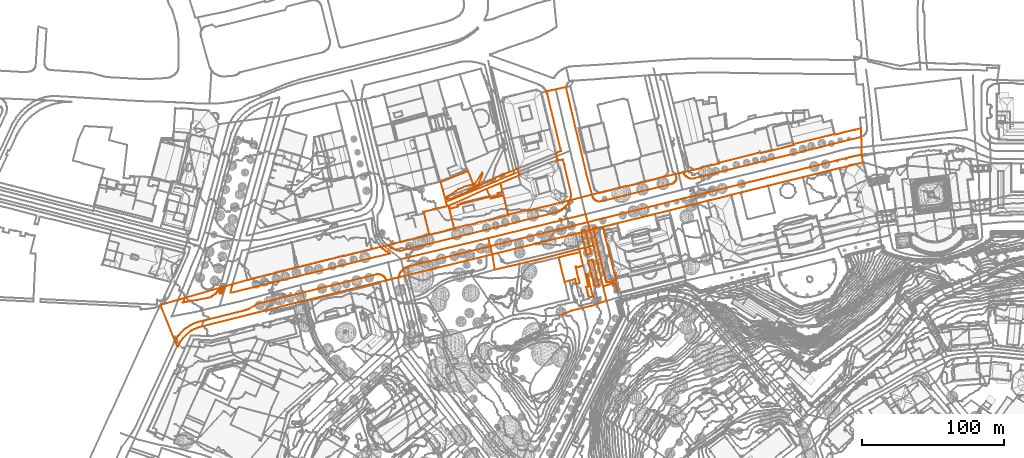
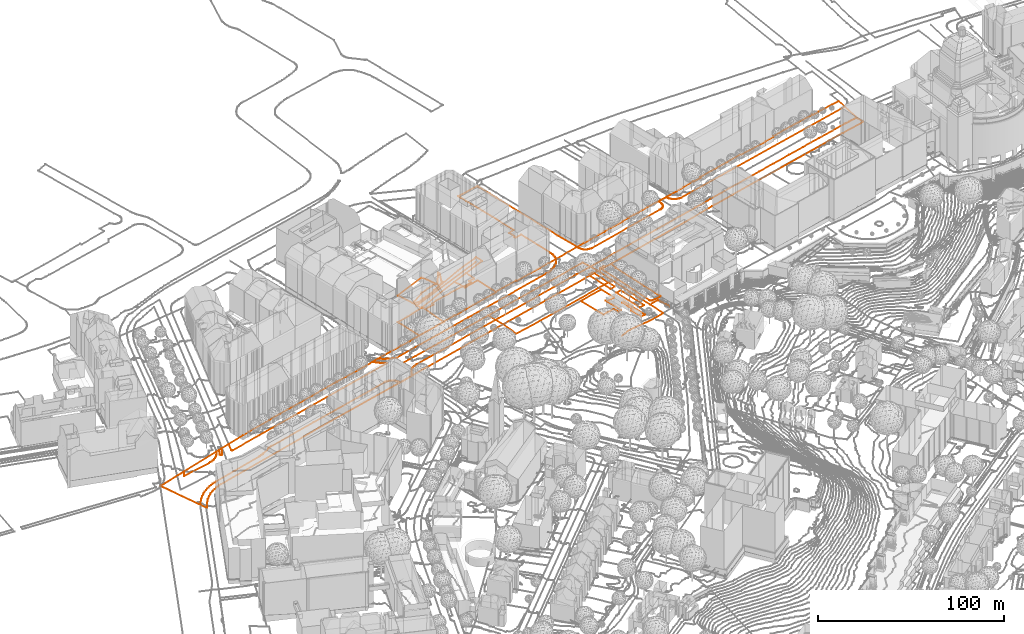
# Not in any storey, part 164 of 477: 18 civil elements, 6 geographic elements.
"""IFC4 model written with IfcOpenShell, lengths in metres."""

import ifcopenshell
import ifcopenshell.guid

model = None  # the IFC model being written
_history = None  # IfcOwnerHistory: only IFC2X3 demands one
_inside = {}  # id of a spatial element -> (the spatial element, [elements in it])
_under = {}  # id of a project, library or spatial element -> (it, [spatial elements below it])
_declared = {}  # id of a project -> (the project, [libraries it declares])
_typed = {}  # id of a type object -> (the type object, [elements of that type])
_made_of = {}  # id of a material, layer set ... -> (it, [elements and type objects made of it])


def new_model(schema):
    """Start an empty IFC model of exactly this schema.

    Asked for "IFC4X3", IfcOpenShell would pick the latest addendum, in which some entities
    have other attributes; the version numbers below select the first issue.
    IFC2X3 requires an IfcOwnerHistory on every rooted entity: one is made here for all.
    """
    global model, _history
    if schema == "IFC4X3":
        model = ifcopenshell.file(schema_version=(4, 3, 0, 0))
    else:
        model = ifcopenshell.file(schema=schema)
    _inside.clear()
    _under.clear()
    _declared.clear()
    _typed.clear()
    _made_of.clear()
    _history = None
    if model.schema == "IFC2X3":
        org = make("IfcOrganization", Name="unknown")
        user = make(
            "IfcPersonAndOrganization",
            ThePerson=make("IfcPerson", FamilyName="unknown"),
            TheOrganization=org,
        )
        app = make(
            "IfcApplication",
            ApplicationDeveloper=org,
            Version="unknown",
            ApplicationFullName="unknown",
            ApplicationIdentifier="unknown",
        )
        _history = make(
            "IfcOwnerHistory",
            OwningUser=user,
            OwningApplication=app,
            ChangeAction="ADDED",
            CreationDate=0,
        )
    return model


def make(cls, **values):
    """One entity of the class cls with the attributes given. An attribute that is None is left unset."""
    return model.create_entity(
        cls, **{name: value for name, value in values.items() if value is not None}
    )


def entity(cls, *values):
    """Any entity or typed value of the class cls, its attributes in the order of the schema. None: left unset."""
    e = model.create_entity(cls)
    for i, value in enumerate(values):
        if value is not None:
            e[i] = value
    return e


def rooted(cls, **values):
    """An entity with a GlobalId (a new one), such as an element, a storey or a relation."""
    return make(cls, GlobalId=ifcopenshell.guid.new(), OwnerHistory=_history, **values)


def si_unit(unit_type, name, prefix=None):
    """IfcSIUnit, for example si_unit("LENGTHUNIT", "METRE", prefix="MILLI")."""
    return make("IfcSIUnit", UnitType=unit_type, Prefix=prefix, Name=name)


def assignment(units):
    """IfcUnitAssignment: the units of a project."""
    return None if units is None else make("IfcUnitAssignment", Units=units)


def point(xyz):
    """IfcCartesianPoint."""
    return None if xyz is None else make("IfcCartesianPoint", Coordinates=xyz)


def direction(xyz):
    """IfcDirection."""
    return None if xyz is None else make("IfcDirection", DirectionRatios=xyz)


def frame(location, z_axis=None, x_axis=None):
    """IfcAxis2Placement3D, a coordinate frame: its origin and axes. An axis left out is left unset."""
    return make(
        "IfcAxis2Placement3D",
        Location=point(location),
        Axis=direction(z_axis),
        RefDirection=direction(x_axis),
    )


def origin_with_axes():
    """The frame at (0, 0, 0) with the z axis (0, 0, 1) and the x axis (1, 0, 0) written out."""
    return frame((0.0, 0.0, 0.0), z_axis=(0.0, 0.0, 1.0), x_axis=(1.0, 0.0, 0.0))


def place(relative_to, where):
    """IfcLocalPlacement: puts the frame where relative to a parent placement (None: the world)."""
    return make(
        "IfcLocalPlacement", PlacementRelTo=relative_to, RelativePlacement=where
    )


def context(
    kind, dimensions, precision=None, world=None, true_north=None, identifier=None
):
    """IfcGeometricRepresentationContext, for example the 3D "Model" context."""
    return make(
        "IfcGeometricRepresentationContext",
        ContextIdentifier=identifier,
        ContextType=kind,
        CoordinateSpaceDimension=dimensions,
        Precision=precision,
        WorldCoordinateSystem=world,
        TrueNorth=true_north,
    )


def subcontext(parent, identifier, kind, view, scale=None):
    """IfcGeometricRepresentationSubContext, for example "Body" below "Model"."""
    return make(
        "IfcGeometricRepresentationSubContext",
        ContextIdentifier=identifier,
        ContextType=kind,
        ParentContext=parent,
        TargetScale=scale,
        TargetView=view,
    )


def project(units=None, contexts=None):
    """IfcProject with its units and contexts."""
    return rooted(
        "IfcProject",
        Name="project",
        RepresentationContexts=contexts,
        UnitsInContext=assignment(units),
    )


def spatial(cls, under=None, at=None, **own):
    """A site, building, storey or space (cls), placed at a placement, below another one or the project."""
    s = rooted(cls, ObjectPlacement=at, **own)
    if under is not None:
        _under.setdefault(under.id(), (under, []))[1].append(s)
    return s


def shape(context_of_items, identifier, shape_type, items):
    """IfcShapeRepresentation: the items that make up one representation, for example the "Body"."""
    return make(
        "IfcShapeRepresentation",
        ContextOfItems=context_of_items,
        RepresentationIdentifier=identifier,
        RepresentationType=shape_type,
        Items=items,
    )


def made_of(thing, what):
    """Note that an element or type object is made of a material, layer set ...; save() writes the relation."""
    if what is not None:
        _made_of.setdefault(what.id(), (what, []))[1].append(thing)
    return thing


def element(
    cls,
    number,
    at=None,
    inside=None,
    cuts=None,
    type_object=None,
    material=None,
    context=None,
    identifier="Body",
    shape_type=None,
    held_by="IfcProductDefinitionShape",
    body=None,
    shapes=None,
    **own,
):
    """One element of the class cls, such as IfcWall. Its Tag is "e" and its number.

    at: its placement. inside: the storey or other place that contains it. cuts: it is an
    opening in that element (IfcRelVoidsElement). A single representation is given by context,
    identifier, shape_type and body (its items); several are given by shapes. held_by: the class
    of the entity that holds the representations. save() writes the other relations.
    """
    e = rooted(cls, Tag="e%d" % number, ObjectPlacement=at, **own)
    if body is not None:
        shapes = [shape(context, identifier, shape_type, body)]
    if shapes is not None:
        e.Representation = make(held_by, Representations=shapes)
    if inside is not None:
        _inside.setdefault(inside.id(), (inside, []))[1].append(e)
    if cuts is not None:
        rooted(
            "IfcRelVoidsElement", RelatingBuildingElement=cuts, RelatedOpeningElement=e
        )
    if type_object is not None:
        _typed.setdefault(type_object.id(), (type_object, []))[1].append(e)
    return made_of(e, material)


def aggregate(whole, parts):
    """IfcRelAggregates: a whole, such as a stair, and the parts it consists of."""
    return rooted("IfcRelAggregates", RelatingObject=whole, RelatedObjects=parts)


def save(model, path):
    """Write the relations noted so far, then the file.

    IfcRelAggregates (storeys below a building ...), IfcRelContainedInSpatialStructure (elements
    in a storey), IfcRelDefinesByType, IfcRelAssociatesMaterial and IfcRelDeclares: one each for
    every whole, place, type object, material and project.
    """
    for whole, parts in _under.values():
        aggregate(whole, parts)
    for where, things in _inside.values():
        rooted(
            "IfcRelContainedInSpatialStructure",
            RelatedElements=things,
            RelatingStructure=where,
        )
    for kind, things in _typed.values():
        rooted("IfcRelDefinesByType", RelatedObjects=things, RelatingType=kind)
    for what, things in _made_of.values():
        rooted("IfcRelAssociatesMaterial", RelatedObjects=things, RelatingMaterial=what)
    for by, libraries in _declared.values():
        rooted("IfcRelDeclares", RelatingContext=by, RelatedDefinitions=libraries)
    model.write(path)


model = new_model("IFC4")

# Units and contexts
model_context = context("Model", 3, precision=1e-05, world=origin_with_axes())
body_context = subcontext(model_context, "Body", "Model", "MODEL_VIEW")
ifc_project = project(units=[si_unit("AREAUNIT", "SQUARE_METRE"), si_unit("LENGTHUNIT", "METRE")], contexts=[model_context])

# Sites
site_1_placement = place(None, origin_with_axes())
site_1 = spatial("IfcSite", under=ifc_project, at=site_1_placement, Name="Topoexport Site")
site_2_placement = place(site_1_placement, origin_with_axes())
site_2 = spatial("IfcSite", under=site_1, at=site_2_placement, Name="TPX_ROADS")

# Civil elements
civil_element_1_placement = place(site_2_placement, frame((220.1377320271, 356.831732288, 540.343), z_axis=(0.0, 0.0, 1.0), x_axis=(1.0, 0.0, 0.0)))
element("IfcCivilElement", 1, at=civil_element_1_placement, inside=site_2, Name="Road 9", ObjectType="ROAD", context=body_context, shape_type="GeometricCurveSet", body=[
    entity("IfcGeometricCurveSet", [entity("IfcIndexedPolyCurve", entity("IfcCartesianPointList3D", [[0.0, 0.0, 0.0], [34.6149999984, 8.5089997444, 0.333], [68.4539999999, 16.8269994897, 0.658]]))]),
])
civil_element_2_placement = place(site_2_placement, frame((271.7527320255, 302.843733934, 541.668), z_axis=(0.0, 0.0, 1.0), x_axis=(1.0, 0.0, 0.0)))
element("IfcCivilElement", 2, at=civil_element_2_placement, inside=site_2, Name="Road 13", ObjectType="ROAD", context=body_context, shape_type="GeometricCurveSet", body=[
    entity("IfcGeometricCurveSet", [entity("IfcIndexedPolyCurve", entity("IfcCartesianPointList3D", [[0.0, 0.0, 0.0], [6.9030000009, 2.9369999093, -0.275], [21.2930000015, 6.4609997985, -1.472], [31.7190000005, 9.8379996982, -2.107]]))]),
])
civil_element_3_placement = place(site_2_placement, frame((301.0267320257, 322.8507333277, 539.803), z_axis=(0.0, 0.0, 1.0), x_axis=(1.0, 0.0, 0.0)))
element("IfcCivilElement", 3, at=civil_element_3_placement, inside=site_2, Name="Road 17", ObjectType="ROAD", context=body_context, shape_type="GeometricCurveSet", body=[
    entity("IfcGeometricCurveSet", [entity("IfcIndexedPolyCurve", entity("IfcCartesianPointList3D", [[10.0540000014, -3.7009998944, -2.405], [9.6550000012, -2.3239999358, -2.347], [8.6359999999, 2.1639999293, -2.601], [5.7419999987, 1.8489999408, -0.211], [0.0, 0.0, 0.0]]))]),
])
civil_element_4_placement = place(site_2_placement, frame((158.6437320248, 342.0537327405, 539.79), z_axis=(0.0, 0.0, 1.0), x_axis=(1.0, 0.0, 0.0)))
element("IfcCivilElement", 4, at=civil_element_4_placement, inside=site_2, Name="Road 29", ObjectType="ROAD", context=body_context, shape_type="GeometricCurveSet", body=[
    entity("IfcGeometricCurveSet", [entity("IfcIndexedPolyCurve", entity("IfcCartesianPointList3D", [[0.0, 0.0, 0.0], [8.9480000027, 2.1499999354, 0.08], [25.4400000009, 6.1129998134, 0.228], [61.4940000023, 14.7779995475, 0.553]]))]),
])
civil_element_5_placement = place(site_2_placement, frame((294.2087320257, 351.6867324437, 540.681), z_axis=(0.0, 0.0, 1.0), x_axis=(1.0, 0.0, 0.0)))
element("IfcCivilElement", 5, at=civil_element_5_placement, inside=site_2, Name="Road 33", ObjectType="ROAD", context=body_context, shape_type="GeometricCurveSet", body=[
    entity("IfcGeometricCurveSet", [entity("IfcIndexedPolyCurve", entity("IfcCartesianPointList3D", [[0.0, 0.0, 0.0], [3.0949999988, -13.5999995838, -0.498], [6.818, -28.8359991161, -0.878]]))]),
])
civil_element_6_placement = place(site_2_placement, frame((288.591732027, 373.6587317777, 541.001), z_axis=(0.0, 0.0, 1.0), x_axis=(1.0, 0.0, 0.0)))
element("IfcCivilElement", 6, at=civil_element_6_placement, inside=site_2, Name="Road 56", ObjectType="ROAD", context=body_context, shape_type="GeometricCurveSet", body=[
    entity("IfcGeometricCurveSet", [entity("IfcIndexedPolyCurve", entity("IfcCartesianPointList3D", [[0.0, 0.0, 0.0], [3.1319999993, -11.0489996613, 0.079], [5.6169999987, -21.9719993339, -0.32]]))]),
])
civil_element_7_placement = place(site_2_placement, frame((220.1377320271, 356.831732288, 540.343), z_axis=(0.0, 0.0, 1.0), x_axis=(1.0, 0.0, 0.0)))
element("IfcCivilElement", 7, at=civil_element_7_placement, inside=site_2, Name="Road 57", ObjectType="ROAD", context=body_context, shape_type="GeometricCurveSet", body=[
    entity("IfcGeometricCurveSet", [entity("IfcIndexedPolyCurve", entity("IfcCartesianPointList3D", [[4.6009999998, -22.1469993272, -0.143], [2.7309999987, -11.3609996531, 0.079], [0.0, 0.0, 0.0]]))]),
])
civil_element_8_placement = place(site_2_placement, frame((242.3617320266, 338.7697328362, 540.332), z_axis=(0.0, 0.0, 1.0), x_axis=(1.0, 0.0, 0.0)))
element("IfcCivilElement", 8, at=civil_element_8_placement, inside=site_2, Name="Road 63", ObjectType="ROAD", context=body_context, shape_type="GeometricCurveSet", body=[
    entity("IfcGeometricCurveSet", [entity("IfcIndexedPolyCurve", entity("IfcCartesianPointList3D", [[51.8469999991, 12.9169996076, 0.349], [41.7259999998, 10.329999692, 0.329], [10.5949999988, 2.5469999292, 0.093], [0.0, 0.0, 0.0]]))]),
])
civil_element_9_placement = place(site_2_placement, frame((224.7387320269, 334.6847329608, 540.2), z_axis=(0.0, 0.0, 1.0), x_axis=(1.0, 0.0, 0.0)))
element("IfcCivilElement", 9, at=civil_element_9_placement, inside=site_2, Name="Road 64", ObjectType="ROAD", context=body_context, shape_type="GeometricCurveSet", body=[
    entity("IfcGeometricCurveSet", [entity("IfcIndexedPolyCurve", entity("IfcCartesianPointList3D", [[17.6229999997, 4.0849998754, 0.132], [0.0, 0.0, 0.0]]))]),
])
civil_element_10_placement = place(site_2_placement, frame((301.0267320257, 322.8507333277, 539.803), z_axis=(0.0, 0.0, 1.0), x_axis=(1.0, 0.0, 0.0)))
element("IfcCivilElement", 10, at=civil_element_10_placement, inside=site_2, Name="Road 77", ObjectType="ROAD", context=body_context, shape_type="GeometricCurveSet", body=[
    entity("IfcGeometricCurveSet", [entity("IfcIndexedPolyCurve", entity("IfcCartesianPointList3D", [[0.0, 0.0, 0.0], [2.4450000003, -10.1689996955, -0.242]]))]),
])
civil_element_11_placement = place(site_2_placement, frame((189.5057320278, 382.143731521, 541.718), z_axis=(0.0, 0.0, 1.0), x_axis=(1.0, 0.0, 0.0)))
element("IfcCivilElement", 11, at=civil_element_11_placement, inside=site_2, Name="Road 88", ObjectType="ROAD", context=body_context, shape_type="GeometricCurveSet", body=[
    entity("IfcGeometricCurveSet", [entity("IfcIndexedPolyCurve", entity("IfcCartesianPointList3D", [[0.0, 0.0, 0.0], [48.8959999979, 20.1329993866, -0.228]]))]),
])

# Site
site_3_placement = place(site_1_placement, origin_with_axes())
site_3 = spatial("IfcSite", under=site_1, at=site_3_placement, Name="TPX_ROADS_OUTLINES")

# Civil elements
civil_element_12_placement = place(site_3_placement, frame((192.4787320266, 379.7927160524, 541.7905563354), z_axis=(0.0, 0.0, 1.0), x_axis=(1.0, 0.0, 0.0)))
element("IfcCivilElement", 12, at=civil_element_12_placement, inside=site_3, Name="Roads Outline 63", ObjectType="ROAD", context=body_context, shape_type="GeometricCurveSet", body=[
    entity("IfcGeometricCurveSet", [entity("IfcIndexedPolyCurve", entity("IfcCartesianPointList3D", [[0.0, 0.0, 0.0], [26.4180000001, 11.7890000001, -0.0218499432], [36.125, 15.831, 0.0800043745], [37.6910000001, 9.5970000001, -0.2802144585], [34.2110000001, 8.811, -0.3226159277], [34.5490000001, 7.3160000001, -0.3870739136], [28.932, 5.9170000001, -0.3695532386], [28.7889999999, 6.4890000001, -0.3444947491], [9.3020000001, 1.6430000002, -0.0586466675], [6.1359999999, 0.368, -0.1306370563], [6.423, -0.781, -0.215636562], [0.5380000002, -2.216, -0.197830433], [0.0720000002, -0.3049999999, -0.0272028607], [0.0, 0.0, 0.0]]))]),
])
civil_element_13_placement = place(site_3_placement, frame((269.6147320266, 343.3117160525, 540.7594516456), z_axis=(0.0, 0.0, 1.0), x_axis=(1.0, 0.0, 0.0)))
element("IfcCivilElement", 13, at=civil_element_13_placement, inside=site_3, Name="Roads Outline 64", ObjectType="ROAD", context=body_context, shape_type="GeometricCurveSet", body=[
    entity("IfcGeometricCurveSet", [entity("IfcIndexedPolyCurve", entity("IfcCartesianPointList3D", [[0.0, 0.0, 0.0], [15.0810000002, 3.686, 0.0234501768], [17.3670000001, -5.9620000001, -0.1599027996], [12.5960000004, -7.1359999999, -0.0687515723], [12.4199999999, -6.419, -0.0547311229], [11.983, -6.527, -0.0555942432], [14.8630000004, -18.227, -0.0034118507], [12.5320000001, -18.801, 0.1840342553], [11.6690000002, -15.294, -0.0178318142], [7.5800000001, -16.3770000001, -0.0804103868], [4.3130000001, -17.243, -0.0383701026], [0.0, 0.0, 0.0]]))]),
])
civil_element_14_placement = place(site_3_placement, frame((288.5997320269, 331.4027160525, 540.4457476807), z_axis=(0.0, 0.0, 1.0), x_axis=(1.0, 0.0, 0.0)))
element("IfcCivilElement", 14, at=civil_element_14_placement, inside=site_3, Name="Roads Outline 66", ObjectType="ROAD", context=body_context, shape_type="GeometricCurveSet", body=[
    entity("IfcGeometricCurveSet", [entity("IfcIndexedPolyCurve", entity("IfcCartesianPointList3D", [[0.0, 0.0, 0.0], [1.2619999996, 0.311, -0.0186984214], [5.2139999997, -15.7450000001, -0.3632645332], [2.3019999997, -16.4680000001, 0.0109983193], [0.5, -9.145, 0.0380046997], [2.1509999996, -8.7390000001, -0.1633429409], [2.1129999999, -8.584, -0.1570562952], [1.9479999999, -8.6240000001, -0.1391603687], [1.0929999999, -5.1470000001, -0.091923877], [1.2569999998, -5.1070000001, -0.1021699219], [0.0, 0.0, 0.0]]))]),
])
civil_element_15_placement = place(site_3_placement, frame((293.9627320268, 364.1367160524, 541.1862244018), z_axis=(0.0, 0.0, 1.0), x_axis=(1.0, 0.0, 0.0)))
element("IfcCivilElement", 15, at=civil_element_15_placement, inside=site_3, Name="Roads Outline 67", ObjectType="ROAD", context=body_context, shape_type="GeometricCurveSet", body=[
    entity("IfcGeometricCurveSet", [entity("IfcIndexedPolyCurve", entity("IfcCartesianPointList3D", [[0.0, 0.0, 0.0], [2.4720000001, 0.6540000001, 0.0524887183], [2.7519999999, -0.361, 0.0005160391], [3.9550000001, -0.05, -0.0993615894], [7.0009999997, 0.6429999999, 0.027078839], [7.952, -3.1899999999, -0.5648132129], [7.7879999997, -3.2309999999, -0.5643892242], [15.8149999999, -35.4609999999, -1.78621427], [16.048, -35.4029999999, -1.7453598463], [16.4169999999, -36.8740000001, -1.7251284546], [12.1549999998, -37.959, -1.578550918], [10.5060000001, -38.379, -1.4810157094], [10.23, -38.4720000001, -1.474998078], [9.9389999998, -38.4890000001, -1.4721529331], [9.6540000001, -38.4299999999, -1.4689190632], [9.395, -38.297, -1.4598351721], [9.1799999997, -38.101, -1.4424281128], [9.023, -37.855, -1.4217861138], [8.9369999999, -37.577, -1.4010787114], [8.9269999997, -37.2860000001, -1.4021518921], [0.2420000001, -1.01, -0.044099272], [0.0, 0.0, 0.0]]))]),
])
civil_element_16_placement = place(site_3_placement, frame((285.5427320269, 360.8847160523, 541.1189967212), z_axis=(0.0, 0.0, 1.0), x_axis=(1.0, 0.0, 0.0)))
element("IfcCivilElement", 16, at=civil_element_16_placement, inside=site_3, Name="Roads Outline 76", ObjectType="ROAD", context=body_context, shape_type="GeometricCurveSet", body=[
    entity("IfcGeometricCurveSet", [entity("IfcIndexedPolyCurve", entity("IfcCartesianPointList3D", [[0.0, 0.0, 0.0], [0.5079999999, 0.1320000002, 0.0060651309], [0.2249999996, 1.2440000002, 0.0309743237], [2.8319999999, 1.8960000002, 0.0465224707], [3.1009999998, 0.8020000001, 0.063706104], [6.9609999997, -14.8599999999, -0.5058277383], [4.3229999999, -15.5089999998, -0.5332584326], [3.8429999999, -15.6269999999, -0.5321510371], [0.0, 0.0, 0.0]]))]),
])
civil_element_17_placement = place(site_3_placement, frame((290.4867320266, 340.7827160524, 540.4100990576), z_axis=(0.0, 0.0, 1.0), x_axis=(1.0, 0.0, 0.0)))
element("IfcCivilElement", 17, at=civil_element_17_placement, inside=site_3, Name="Roads Outline 77", ObjectType="ROAD", context=body_context, shape_type="GeometricCurveSet", body=[
    entity("IfcGeometricCurveSet", [entity("IfcIndexedPolyCurve", entity("IfcCartesianPointList3D", [[0.0, 0.0, 0.0], [0.4790000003, 0.118, -0.0092788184], [3.1200000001, 0.7680000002, -0.0011076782], [7.4750000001, -16.9039999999, -0.5202411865], [4.8000000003, -17.655, -0.5288057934], [4.3710000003, -17.7749999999, -0.4822192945], [0.0, 0.0, 0.0]]))]),
])
civil_element_18_placement = place(site_3_placement, frame((-10.7912679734, 309.6077160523, 537.6436273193), z_axis=(0.0, 0.0, 1.0), x_axis=(1.0, 0.0, 0.0)))
element("IfcCivilElement", 18, at=civil_element_18_placement, inside=site_3, Name="Roads Outline 97", ObjectType="ROAD", context=body_context, shape_type="GeometricCurveSet", body=[
    entity("IfcGeometricCurveSet", [entity("IfcIndexedPolyCurve", entity("IfcCartesianPointList3D", [[0.0, 0.0, 0.0], [0.3220000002, 0.2200000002, 0.0051085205], [0.6400000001, 0.4470000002, 0.0076578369], [17.4350000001, 5.236, 0.3390557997], [16.5559999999, 3.5150000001, 0.2434427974], [15.6580000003, 1.8050000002, 0.1855998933], [32.8910000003, 5.0460000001, 0.5968490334], [33.7889999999, 5.2640000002, 0.662506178], [34.6669999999, 5.55, 0.678084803], [35.5210000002, 5.902, 0.6947553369], [36.3459999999, 6.3180000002, 0.7197114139], [37.1370000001, 6.7950000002, 0.7399249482], [37.8900000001, 7.331, 0.7703016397], [38.5989999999, 7.9230000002, 0.7964645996], [39.2280000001, 8.5320000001, 0.8205807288], [39.8130000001, 9.1840000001, 0.821366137], [40.3480000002, 9.8770000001, 0.8224283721], [40.8330000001, 10.6070000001, 0.8596125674], [41.2630000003, 11.3690000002, 0.8806098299], [41.6380000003, 12.1610000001, 0.9059954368], [43.5079999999, 12.6950000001, 0.9677806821], [43.173, 11.7250000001, 0.9450813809], [42.7650000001, 10.7830000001, 0.9309542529], [42.2850000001, 9.8760000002, 0.9202557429], [41.7370000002, 9.0080000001, 0.9033874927], [41.6940000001, 8.7720000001, 0.8789350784], [41.73, 8.5350000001, 0.858119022], [41.8400000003, 8.3220000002, 0.8409157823], [42.0130000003, 8.1560000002, 0.8252620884], [42.2310000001, 8.0560000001, 0.8064551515], [42.4700000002, 8.0310000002, 0.7967394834], [42.7030000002, 8.0850000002, 0.7896681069], [42.9070000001, 8.2110000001, 0.7961607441], [43.0589999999, 8.3970000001, 0.8184261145], [43.656, 9.4360000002, 0.8827405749], [44.1299999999, 10.3390000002, 0.8649752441], [44.5520000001, 11.267, 0.8306055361], [44.9199999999, 12.2180000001, 0.8270057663], [45.233, 13.1880000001, 0.8969396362], [50.7760000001, 14.7720000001, 0.9830063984], [49.2760000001, 9.415, 0.8522307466], [49.2600000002, 9.2450000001, 0.8430877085], [49.3020000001, 9.0790000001, 0.8380331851], [49.3969999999, 8.9370000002, 0.844458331], [49.5530000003, 8.8260000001, 0.856460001], [49.7390000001, 8.78, 0.8707221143], [49.929, 8.807, 0.8847520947], [68.6690000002, 13.412, 1.1473330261], [97.5970000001, 20.5480000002, 1.4918887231], [161.6750000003, 36.4310000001, 2.2250358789], [160.6180000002, 36.996, 2.2110733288], [159.594, 37.6190000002, 2.2476789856], [158.6060000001, 38.297, 2.2990830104], [157.6570000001, 39.0280000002, 2.3415802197], [156.8470000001, 39.7010000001, 2.3344924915], [156.071, 40.4130000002, 2.3137635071], [155.3300000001, 41.1610000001, 2.3058332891], [159.7239999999, 42.263, 2.2763394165], [160.6090000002, 41.5690000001, 2.3154459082], [161.5360000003, 40.9310000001, 2.3345369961], [162.5, 40.3520000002, 2.3320183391], [163.4990000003, 39.8330000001, 2.3391091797], [164.5270000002, 39.3770000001, 2.3463029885], [165.5819999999, 38.9850000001, 2.3375812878], [166.6580000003, 38.6600000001, 2.2988757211], [167.753, 38.4010000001, 2.2571390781], [168.8620000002, 38.2110000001, 2.2206703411], [220.503, 50.9810000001, 2.7285862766], [277.5720000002, 65.0850000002, 3.2937418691], [278.6210000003, 65.358, 3.3020232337], [279.6490000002, 65.7030000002, 3.2908173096], [280.6499999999, 66.1190000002, 3.3306107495], [281.6200000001, 66.6030000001, 3.2982397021], [282.554, 67.1530000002, 3.2681064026], [283.3530000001, 67.6980000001, 3.2805751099], [284.1170000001, 68.2920000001, 3.273669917], [284.8429999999, 68.932, 3.349436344], [285.514, 69.601, 3.32281034], [286.1430000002, 70.3100000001, 3.3091591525], [286.7140000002, 70.9500000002, 3.3337806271], [287.2320000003, 71.6340000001, 3.3384879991], [287.693, 72.3570000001, 3.3365703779], [288.0929999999, 73.1160000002, 3.3288259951], [288.4309999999, 73.9040000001, 3.3488089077], [288.5840000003, 74.3330000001, 3.3701027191], [288.7179999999, 74.7690000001, 3.3988707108], [288.9280000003, 75.6500000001, 3.4325784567], [289.0630000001, 76.5460000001, 3.4329571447], [289.1200000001, 77.4500000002, 3.4279456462], [289.1000000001, 78.3550000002, 3.4313172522], [289.003, 79.2560000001, 3.435212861], [288.8289999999, 80.145, 3.455790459], [284.4350000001, 98.5930000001, 3.7690300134], [283.4480000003, 102.7250000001, 3.8030743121], [279.2230000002, 101.6830000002, 3.8767672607], [278.997, 102.598, 3.8832312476], [279.534, 102.814, 3.8976440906], [278.4679999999, 107.202, 3.9446903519], [282.0320000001, 108.6630000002, 3.8431154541], [281.6310000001, 110.3460000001, 3.8833692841], [273.4580000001, 144.6240000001, 4.091053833], [272.5670000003, 148.398, 4.1143554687], [272.3450000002, 149.1510000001, 4.1197076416], [272.0670000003, 149.8860000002, 4.1264099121], [271.733, 150.5970000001, 4.1286861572], [285.8680000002, 153.763, 4.0553883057], [285.838, 153.1730000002, 4.0544215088], [285.8770000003, 152.584, 4.0556783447], [285.986, 152.003, 4.0594784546], [288.9950000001, 139.2310000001, 4.0737255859], [292.8480000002, 122.8380000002, 3.9443182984], [296.645, 106.7210000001, 3.9251955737], [300.0640000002, 92.172, 3.7774139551], [303.9500000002, 77.8360000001, 3.5955859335], [304.2400000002, 76.7660000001, 3.5870727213], [304.429, 76.2210000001, 3.5849634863], [304.679, 75.7010000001, 3.5755636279], [304.9849999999, 75.2120000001, 3.5402482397], [305.3450000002, 74.76, 3.5570950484], [305.753, 74.3520000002, 3.571948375], [306.2039999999, 73.993, 3.5666111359], [306.736, 73.662, 3.5640049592], [307.3050000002, 73.398, 3.5574937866], [307.9020000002, 73.206, 3.5437921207], [308.517, 73.0870000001, 3.5654353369], [309.1430000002, 73.0450000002, 3.5881645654], [309.7690000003, 73.0800000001, 3.5814865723], [310.3859999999, 73.1900000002, 3.5889422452], [359.5500000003, 85.3540000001, 4.122204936], [360.0520000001, 85.4280000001, 4.1309734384], [360.5419999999, 85.5630000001, 4.131662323], [361.0120000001, 85.7550000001, 4.1299970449], [361.4550000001, 86.003, 4.1487502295], [361.8659999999, 86.3020000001, 4.1647222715], [362.2370000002, 86.6490000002, 4.156798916], [362.5630000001, 87.0380000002, 4.1400809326], [362.8450000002, 87.473, 4.1447046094], [363.071, 87.939, 4.1512158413], [363.2379999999, 88.4300000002, 4.1576333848], [363.344, 88.9370000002, 4.1620196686], [363.3859999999, 89.4540000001, 4.1511289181], [363.3640000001, 89.9720000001, 4.136978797], [363.2790000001, 90.483, 4.1305927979], [362.7949999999, 92.378, 4.1812657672], [368.523, 93.7290000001, 4.2551353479], [368.4720000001, 93.645, 4.2478166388], [368.6600000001, 93.0340000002, 4.2298088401], [368.9130000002, 92.4470000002, 4.2269506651], [369.2280000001, 91.8910000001, 4.2277793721], [369.602, 91.3730000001, 4.2294097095], [370.0290000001, 90.8970000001, 4.2281650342], [370.5049999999, 90.4710000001, 4.2346203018], [371.0240000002, 90.098, 4.2298510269], [371.6129999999, 89.7680000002, 4.2286180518], [372.236, 89.5080000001, 4.2214827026], [372.8850000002, 89.3200000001, 4.2092533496], [373.551, 89.2080000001, 4.2108557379], [374.2250000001, 89.1730000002, 4.2123679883], [374.8990000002, 89.2150000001, 4.2100749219], [375.5640000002, 89.334, 4.2192934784], [493.202, 118.4140000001, 4.8165775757], [493.4050000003, 118.4670000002, 4.8204061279], [493.6060000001, 118.527, 4.8241969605], [493.9560000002, 107.4280000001, 4.9908239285], [494.0020000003, 105.9540000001, 5.0971642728], [492.1970000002, 105.6440000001, 5.0957997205], [490.398, 105.297, 5.0838150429], [488.4720000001, 104.9000000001, 4.9782979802], [486.5530000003, 104.4720000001, 5.0774941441], [485.4130000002, 104.1930000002, 5.1054228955], [478.6710000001, 102.5380000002, 5.0623879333], [466.8420000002, 99.6090000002, 5.0688649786], [455.1320000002, 96.682, 5.0254639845], [445.1980000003, 94.2370000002, 4.9445222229], [433.9300000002, 91.456, 4.8489107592], [423.264, 88.797, 4.850466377], [415.6869999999, 86.9370000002, 4.7340635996], [401.2239999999, 83.3550000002, 4.5646100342], [376.8640000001, 77.321, 4.2555193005], [311.071, 61.017, 3.5562041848], [290.9790000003, 56.0430000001, 3.4758251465], [290.1680000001, 55.8420000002, 3.4465723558], [280.8080000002, 53.5430000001, 3.3531432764], [234.3910000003, 42.0730000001, 2.8920779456], [175.25, 27.439, 2.3840037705], [174.4160000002, 27.2140000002, 2.3535679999], [173.6060000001, 26.9160000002, 2.3154784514], [172.8259999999, 26.5460000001, 2.2920153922], [172.0819999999, 26.1070000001, 2.2761845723], [171.3810000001, 25.6040000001, 2.2636034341], [170.727, 25.04, 2.2402028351], [170.1270000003, 24.419, 2.2177166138], [169.6440000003, 23.8260000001, 2.2061567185], [169.2090000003, 23.1970000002, 2.1762475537], [168.8259999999, 22.5350000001, 2.1589072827], [168.4960000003, 21.8450000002, 2.1421243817], [168.2220000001, 21.1310000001, 2.1307387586], [168.0060000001, 20.3970000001, 2.1151770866], [167.8480000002, 19.6490000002, 2.1121143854], [158.9350000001, 17.4500000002, 1.8241074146], [158.7310000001, 18.0630000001, 1.8777580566], [158.463, 18.6500000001, 1.9029850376], [158.1320000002, 19.2040000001, 1.9183265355], [157.7430000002, 19.719, 1.9488952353], [157.3000000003, 20.189, 1.992332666], [156.8089999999, 20.608, 1.9990894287], [156.2749999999, 20.9710000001, 2.0201800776], [155.6890000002, 21.28, 2.0457096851], [155.0730000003, 21.5220000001, 2.0422537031], [154.4339999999, 21.6940000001, 2.0435438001], [153.7790000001, 21.794, 2.0474317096], [153.1170000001, 21.8190000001, 2.0529800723], [152.4569999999, 21.7710000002, 2.0629327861], [151.8059999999, 21.6500000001, 2.0711317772], [100.1869999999, 8.8690000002, 1.5660293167], [70.3080000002, 1.4720000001, 1.2013823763], [69.4080000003, 1.226, 1.2068258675], [68.5300000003, 0.9100000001, 1.2220818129], [67.713, 0.544, 1.2191106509], [66.9250000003, 0.1170000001, 1.1825543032], [62.7420000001, -2.22, 1.1034851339], [62.0300000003, -2.581, 1.0711046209], [61.3020000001, -2.9099999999, 1.0818905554], [60.5630000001, -3.2039999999, 1.0797641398], [59.8119999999, -3.463, 1.0636737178], [59.0490000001, -3.6879999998, 1.0421851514], [27.9169999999, -11.4239999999, 0.2703774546], [26.605, -11.777, 0.2211049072], [25.3130000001, -12.196, 0.1833893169], [24.0440000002, -12.679, 0.1297672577], [22.8000000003, -13.2249999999, 0.0945887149], [21.5860000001, -13.8339999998, 0.0584778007], [20.4040000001, -14.5019999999, -0.0001894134], [19.2570000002, -15.23, -0.0441992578], [18.0730000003, -16.071, -0.0972138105], [16.9360000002, -16.9739999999, -0.1615690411], [15.8500000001, -17.9369999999, -0.2121898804], [14.8170000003, -18.9579999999, -0.3021599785], [13.8400000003, -20.0319999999, -0.4024647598], [13.0619999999, -20.9369999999, -0.4600594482], [12.321, -21.8729999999, -0.5459568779], [11.6189999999, -22.838, -0.595087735], [10.9560000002, -23.831, -0.6577360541], [10.5660000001, -24.4579999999, -0.6850594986], [10.1910000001, -25.095, -0.7179532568], [0.0, 0.0, 0.0]]))]),
])

# Site
site_4_placement = place(site_1_placement, origin_with_axes())
site_4 = spatial("IfcSite", under=site_1, at=site_4_placement, Name="TPX_CADASTRES")

# Geographic elements
geographic_element_1_placement = place(site_4_placement, frame((192.1287320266, 379.7027160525, 541.7885711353), z_axis=(0.0, 0.0, 1.0), x_axis=(1.0, 0.0, 0.0)))
element("IfcGeographicElement", 19, at=geographic_element_1_placement, inside=site_4, Name="Cadastre 6", PredefinedType="NOTDEFINED", context=body_context, shape_type="GeometricCurveSet", body=[
    entity("IfcGeometricCurveSet", [entity("IfcIndexedPolyCurve", entity("IfcCartesianPointList3D", [[0.0, 0.0, 0.0], [0.3500000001, 0.0899999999, 0.0019852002], [26.7680000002, 11.879, -0.019864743], [29.139, 6.5789999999, -0.342509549], [29.5390000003, 4.9789999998, -0.412647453], [38.7680000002, 7.2589999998, -0.3768767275], [42.1710000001, -6.5410000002, -0.9718104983], [20.5300000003, -11.8720000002, -1.1344248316], [20.5520000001, -11.9800000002, -1.1407076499], [19.7120000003, -12.1700000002, -1.1695242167], [19.736, -12.2750000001, -1.1713543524], [12.844, -13.9810000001, -1.2567516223], [12.8250000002, -13.888, -1.249406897], [11.9820000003, -14.0890000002, -1.2447536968], [11.9650000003, -13.9920000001, -1.2425751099], [4.3390000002, -15.8720000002, -1.3404417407], [4.392, -16.0860000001, -1.352550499], [4.0090000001, -16.1800000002, -1.3610452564], [0.0, 0.0, 0.0]]))]),
])
geographic_element_2_placement = place(site_4_placement, frame((186.5377320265, 396.3497160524, 541.3482641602), z_axis=(0.0, 0.0, 1.0), x_axis=(1.0, 0.0, 0.0)))
element("IfcGeographicElement", 20, at=geographic_element_2_placement, inside=site_4, Name="Cadastre 7", PredefinedType="NOTDEFINED", context=body_context, shape_type="GeometricCurveSet", body=[
    entity("IfcGeometricCurveSet", [entity("IfcIndexedPolyCurve", entity("IfcCartesianPointList3D", [[0.0, 0.0, 0.0], [19.3490000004, 7.757, 0.3874063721], [24.0860000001, -4.1469999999, 0.5794930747], [3.8640000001, -14.044, 0.6168435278], [3.0460000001, -11.156, 0.5862569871], [3.139, -11.1189999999, 0.5987702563], [0.0, 0.0, 0.0]]))]),
])
geographic_element_3_placement = place(site_4_placement, frame((190.4017320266, 382.3057160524, 541.965107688), z_axis=(0.0, 0.0, 1.0), x_axis=(1.0, 0.0, 0.0)))
element("IfcGeographicElement", 21, at=geographic_element_3_placement, inside=site_4, Name="Cadastre 9", PredefinedType="NOTDEFINED", context=body_context, shape_type="GeometricCurveSet", body=[
    entity("IfcGeometricCurveSet", [entity("IfcIndexedPolyCurve", entity("IfcCartesianPointList3D", [[0.0, 0.0, 0.0], [20.2220000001, 9.8970000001, -0.0373504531], [35.6290000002, 17.4369999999, 0.0043016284], [49.4879999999, 23.1159999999, -0.2728109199], [50.4410000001, 23.5079999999, -0.2827955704], [51.574, 18.8870000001, -0.279586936], [28.4950000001, 9.2760000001, -0.1964012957], [2.077, -2.513, -0.1745513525], [1.727, -2.6029999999, -0.1765365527], [1.3770000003, -2.693, -0.1886758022], [1.3900000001, -2.7449999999, -0.1927232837], [0.8190000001, -2.885, -0.2105606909], [0.0, 0.0, 0.0]]))]),
])
geographic_element_4_placement = place(site_4_placement, frame((-10.8872679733, 309.8447160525, 537.6489267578), z_axis=(0.0, 0.0, 1.0), x_axis=(1.0, 0.0, 0.0)))
element("IfcGeographicElement", 22, at=geographic_element_4_placement, inside=site_4, Name="Cadastre 44", PredefinedType="NOTDEFINED", context=body_context, shape_type="GeometricCurveSet", body=[
    entity("IfcGeometricCurveSet", [entity("IfcIndexedPolyCurve", entity("IfcCartesianPointList3D", [[0.0, 0.0, 0.0], [61.4219999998, 17.548, 1.2739363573], [80.7629999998, 22.382, 1.5708132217], [80.7250000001, 22.5349999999, 1.5733459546], [96.8810000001, 26.5389999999, 1.7668315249], [129.6349999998, 34.6569999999, 2.1383421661], [129.6639999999, 34.5389999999, 2.1329694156], [148.912, 39.2899999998, 2.2370598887], [169.1179999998, 44.3589999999, 2.4225662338], [176.398, 46.1639999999, 2.5357889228], [176.426, 46.0529999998, 2.5259612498], [182.5980000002, 47.5839999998, 2.5626514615], [182.574, 47.6809999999, 2.5641640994], [189.486, 49.395, 2.6250744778], [194.8470000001, 50.7239999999, 2.6482612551], [194.872, 50.622, 2.6509833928], [201.6269999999, 52.2949999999, 2.7614913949], [201.5920000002, 52.436, 2.7638895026], [206.5159999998, 53.6549999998, 2.7737496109], [206.54, 53.5569999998, 2.773965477], [207.0249999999, 53.6779999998, 2.7785991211], [207.4079999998, 53.7719999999, 2.7870938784], [207.355, 53.9859999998, 2.7992026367], [214.9810000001, 55.8659999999, 2.8970692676], [214.9980000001, 55.7689999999, 2.8948906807], [215.841, 55.97, 2.8902374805], [215.8599999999, 55.8769999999, 2.8828927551], [222.7519999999, 57.5829999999, 2.9682900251], [222.7280000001, 57.6879999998, 2.9701201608], [223.568, 57.8779999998, 2.9989367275], [223.5460000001, 57.9859999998, 3.0052195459], [245.1869999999, 63.3169999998, 3.1678338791], [245.3659999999, 63.3609999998, 3.1733525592], [245.3089999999, 63.6099999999, 3.1768770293], [259.963, 67.2109999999, 3.3770296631], [260.088, 66.6839999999, 3.3509116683], [281.3650000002, 71.889, 3.5279739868], [281.3399999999, 72.0249999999, 3.5295495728], [283.2609999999, 72.4939999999, 3.5463471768], [283.432, 72.399, 3.5420222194], [309.4190000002, 78.9549999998, 3.7561125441], [310.0970000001, 79.1189999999, 3.7525861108], [310.0860000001, 79.2069999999, 3.7562320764], [313.7209999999, 80.1189999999, 3.7649685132], [313.753, 80.0449999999, 3.7625805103], [319.7220000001, 81.5359999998, 3.8189657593], [319.702, 81.615, 3.8172765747], [323.3429999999, 82.5149999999, 3.8873038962], [323.3810000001, 82.436, 3.8907891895], [323.7450000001, 82.5249999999, 3.916430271], [324.1090000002, 82.6139999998, 3.9467070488], [324.0860000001, 82.7, 3.9493662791], [328.2579999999, 83.733, 3.9609412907], [328.3119999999, 83.5049999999, 3.9520133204], [336.7370000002, 85.591, 4.0828955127], [336.6770000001, 85.8229999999, 4.0897221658], [340.8289999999, 86.8639999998, 4.1295658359], [340.8629999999, 86.7749999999, 4.1267457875], [341.2280000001, 86.865, 4.1321051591], [341.5920000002, 86.9539999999, 4.1319095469], [341.5690000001, 87.0459999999, 4.1313041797], [345.193, 87.9349999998, 4.1151041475], [345.2239999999, 87.8539999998, 4.1154482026], [351.2149999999, 89.341, 4.1946859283], [351.2039999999, 89.4209999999, 4.1913416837], [354.8330000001, 90.3259999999, 4.2855712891], [354.8650000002, 90.2359999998, 4.2840161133], [355.551, 90.409, 4.2928599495], [375.835, 95.1949999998, 4.4126586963], [381.0, 96.4939999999, 4.4655624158], [380.906, 96.872, 4.4899622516], [388.3769999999, 98.7349999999, 4.5136766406], [388.4709999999, 98.3569999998, 4.5144101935], [393.2059999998, 99.5289999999, 4.5795624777], [393.6910000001, 99.649, 4.5731510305], [393.5610000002, 100.1429999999, 4.5814264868], [422.9079999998, 107.4549999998, 4.8196266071], [423.0240000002, 106.9889999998, 4.8242038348], [429.2620000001, 108.5629999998, 4.8952390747], [429.3130000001, 108.355, 4.8970750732], [440.2859999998, 111.054, 4.9725981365], [440.2209999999, 111.284, 4.9713739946], [445.9709999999, 112.7049999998, 4.9493953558], [446.4610000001, 112.8169999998, 4.9449309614], [446.3309999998, 113.3369999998, 4.9419563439], [474.6839999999, 120.2709999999, 4.9698636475], [474.818, 119.7999999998, 4.9739366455], [475.1779999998, 119.8899999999, 4.9755129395], [479.3969999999, 120.9299999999, 4.9239985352], [479.3569999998, 121.0699999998, 4.9236469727], [488.8739999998, 123.4179999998, 4.8805296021], [488.9160000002, 123.291, 4.8793939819], [493.5090000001, 124.419, 4.8152575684], [494.1359999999, 104.497, 5.1091214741], [495.0839999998, 100.4509999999, 5.2106862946], [493.3390000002, 100.0259999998, 5.2594173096], [493.352, 99.9589999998, 5.2579208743], [480.2409999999, 96.7149999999, 5.2989167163], [480.2230000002, 96.7849999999, 5.299081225], [400.3620000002, 77.047, 4.7496073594], [400.3739999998, 76.9839999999, 4.7487656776], [387.27, 73.7189999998, 4.6141490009], [387.2510000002, 73.7859999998, 4.614898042], [385.5099999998, 73.3529999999, 4.5427919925], [358.4029999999, 66.48, 4.0652782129], [308.8050000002, 54.2419999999, 3.4379360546], [292.5320000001, 50.0319999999, 3.5745433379], [174.8760000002, 21.122, 2.3502514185], [154.6200000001, 16.125, 2.0002041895], [100.298, 2.5919999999, 1.7087239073], [28.9500000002, -15.199, 0.3152572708], [27.5989999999, -15.5850000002, 0.27875866], [26.2719999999, -16.0460000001, 0.2152550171], [24.9730000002, -16.581, 0.1725868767], [23.7059999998, -17.189, 0.1467868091], [22.4750000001, -17.8660000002, 0.0785961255], [21.284, -18.611, 0.0498342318], [20.1370000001, -19.4230000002, -0.0065800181], [19.037, -20.297, -0.1190938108], [17.9879999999, -21.2320000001, -0.1221330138], [16.9929999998, -22.2240000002, -0.2064667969], [16.0559999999, -23.2710000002, -0.2622428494], [15.179, -24.368, -0.3500888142], [14.3640000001, -25.513, -0.4348101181], [13.6159999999, -26.702, -0.5337100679], [12.9350000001, -27.932, -0.68611031], [12.3250000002, -29.1970000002, -0.7730606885], [11.7560000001, -28.9500000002, -0.7602424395], [0.0, 0.0, 0.0]]))]),
])
geographic_element_5_placement = place(site_4_placement, frame((174.3117320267, 375.2797160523, 540.7834452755), z_axis=(0.0, 0.0, 1.0), x_axis=(1.0, 0.0, 0.0)))
element("IfcGeographicElement", 23, at=geographic_element_5_placement, inside=site_4, Name="Cadastre 61", PredefinedType="NOTDEFINED", context=body_context, shape_type="GeometricCurveSet", body=[
    entity("IfcGeometricCurveSet", [entity("IfcIndexedPolyCurve", entity("IfcCartesianPointList3D", [[0.0, 0.0, 0.0], [7.3059999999, 1.794, -0.0205337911], [7.2930000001, 1.845, -0.0192518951], [10.8259999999, 2.7110000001, 0.421527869], [10.8399999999, 2.652, 0.4179606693], [16.909, 4.1410000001, 0.9711017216], [17.48, 4.2810000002, 0.9889391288], [17.4670000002, 4.3330000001, 0.9929866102], [17.8169999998, 4.4230000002, 1.0051258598], [21.8259999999, -11.757, -0.3559193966], [21.341, -11.878, -0.3605530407], [21.3169999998, -11.78, -0.3607689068], [16.3930000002, -12.9989999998, -0.3706290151], [16.4279999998, -13.1399999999, -0.3730271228], [9.673, -14.8129999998, -0.4835351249], [9.648, -14.7109999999, -0.4862572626], [4.287, -16.0399999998, -0.5094440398], [0.557, -0.9889999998, -0.0342321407], [0.2599999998, -1.0629999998, -0.0274477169], [0.0, 0.0, 0.0]]))]),
])

# Site
site_5_placement = place(site_1_placement, origin_with_axes())
site_5 = spatial("IfcSite", under=site_1, at=site_5_placement, Name="TPX_CONTOUR_LINES")

# Geographic element
geographic_element_6_placement = place(site_5_placement, frame((190.5067497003, 385.1707160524, 542.0), z_axis=(0.0, 0.0, 1.0), x_axis=(1.0, 0.0, 0.0)))
element("IfcGeographicElement", 24, at=geographic_element_6_placement, inside=site_5, Name="Contour Line 542.0 m", PredefinedType="NOTDEFINED", context=body_context, shape_type="GeometricCurveSet", body=[
    entity("IfcGeometricCurveSet", [entity("IfcIndexedPolyCurve", entity("IfcCartesianPointList3D", [[4.350742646, 0.0, 0.0], [3.1709823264, -0.7329105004, 0.0], [1.1709823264, -0.514893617, 0.0], [0.1709823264, -0.9265033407, 0.0], [0.0, 0.0, 0.0], [0.4445979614, 1.0, 0.0], [7.0232211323, 5.0, 0.0], [8.1709823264, 6.1018276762, 0.0], [10.8995252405, 7.0, 0.0], [12.8821377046, 8.0, 0.0], [20.1820934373, 10.0, 0.0], [25.1709823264, 17.9014084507, 0.0], [25.4721587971, 17.0, 0.0], [25.2610797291, 16.0, 0.0], [22.6978552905, 10.0, 0.0], [23.1929823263, 9.0, 0.0], [22.1709823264, 9.1586475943, 0.0], [19.1709823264, 6.8973346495, 0.0], [15.160952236, 5.0, 0.0], [13.1709823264, 3.1331460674, 0.0], [11.1709823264, 3.0794285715, 0.0], [8.1709823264, 1.6477987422, 0.0], [6.1709823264, 1.1157495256, 0.0], [4.350742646, 0.0, 0.0]]))]),
])

save(model, "model.ifc")
